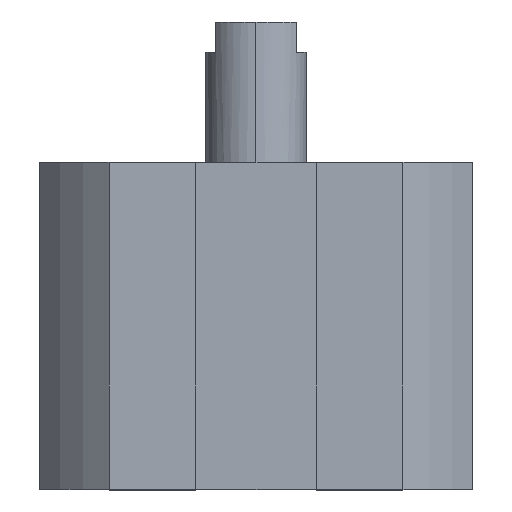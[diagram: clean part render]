
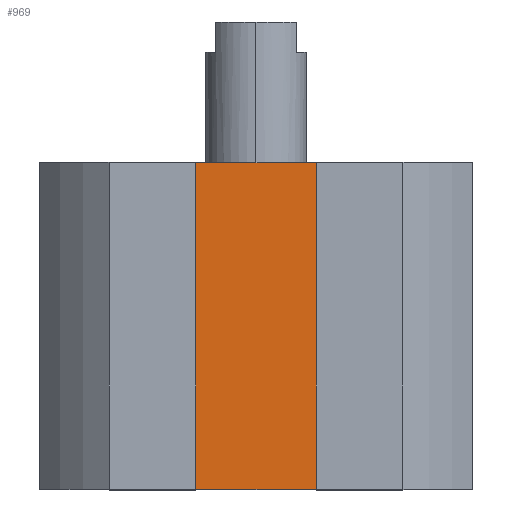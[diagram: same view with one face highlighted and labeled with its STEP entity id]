
A CAD part, top view. The second image highlights one B-rep face of the part: STEP entity #969.
In plain terms, the highlighted planar face has unit normal (0, 0, 1).
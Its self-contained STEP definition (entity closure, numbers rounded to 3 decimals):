
#120 = VERTEX_POINT ( 'NONE', #1189 ) ;
#129 = DIRECTION ( 'NONE',  ( 0., 0., 1. ) ) ;
#245 = VERTEX_POINT ( 'NONE', #2519 ) ;
#294 = ORIENTED_EDGE ( 'NONE', *, *, #819, .T. ) ;
#297 = DIRECTION ( 'NONE',  ( 1., 0., 0. ) ) ;
#336 = CARTESIAN_POINT ( 'NONE',  ( 0., -32.5, 14. ) ) ;
#378 = CARTESIAN_POINT ( 'NONE',  ( 7.7, -32.5, 14. ) ) ;
#533 = EDGE_CURVE ( 'NONE', #1047, #2322, #2314, .T. ) ;
#631 = EDGE_LOOP ( 'NONE', ( #1707, #858, #294, #2703 ) ) ;
#819 = EDGE_CURVE ( 'NONE', #120, #1047, #2276, .T. ) ;
#858 = ORIENTED_EDGE ( 'NONE', *, *, #1051, .F. ) ;
#938 = CARTESIAN_POINT ( 'NONE',  ( 7.7, 0., 14. ) ) ;
#969 = ADVANCED_FACE ( 'NONE', ( #1149 ), #1836, .T. ) ;
#1047 = VERTEX_POINT ( 'NONE', #378 ) ;
#1051 = EDGE_CURVE ( 'NONE', #120, #245, #2071, .T. ) ;
#1149 = FACE_OUTER_BOUND ( 'NONE', #631, .T. ) ;
#1189 = CARTESIAN_POINT ( 'NONE',  ( -7.7, -32.5, 14. ) ) ;
#1300 = CARTESIAN_POINT ( 'NONE',  ( 0., 0., 14. ) ) ;
#1363 = CARTESIAN_POINT ( 'NONE',  ( 0., -32.5, 14. ) ) ;
#1406 = DIRECTION ( 'NONE',  ( 1., 0., 0. ) ) ;
#1419 = LINE ( 'NONE', #1300, #1952 ) ;
#1431 = DIRECTION ( 'NONE',  ( 0., 1., 0. ) ) ;
#1529 = VECTOR ( 'NONE', #2376, 1000. ) ;
#1707 = ORIENTED_EDGE ( 'NONE', *, *, #2090, .F. ) ;
#1714 = DIRECTION ( 'NONE',  ( 1., 0., 0. ) ) ;
#1836 = PLANE ( 'NONE',  #1862 ) ;
#1862 = AXIS2_PLACEMENT_3D ( 'NONE', #336, #129, #1406 ) ;
#1952 = VECTOR ( 'NONE', #1714, 1000. ) ;
#2045 = CARTESIAN_POINT ( 'NONE',  ( -7.7, -32.5, 14. ) ) ;
#2071 = LINE ( 'NONE', #2045, #2525 ) ;
#2090 = EDGE_CURVE ( 'NONE', #245, #2322, #1419, .T. ) ;
#2276 = LINE ( 'NONE', #1363, #2310 ) ;
#2310 = VECTOR ( 'NONE', #297, 1000. ) ;
#2314 = LINE ( 'NONE', #2410, #1529 ) ;
#2322 = VERTEX_POINT ( 'NONE', #938 ) ;
#2376 = DIRECTION ( 'NONE',  ( 0., 1., 0. ) ) ;
#2410 = CARTESIAN_POINT ( 'NONE',  ( 7.7, -32.5, 14. ) ) ;
#2519 = CARTESIAN_POINT ( 'NONE',  ( -7.7, 0., 14. ) ) ;
#2525 = VECTOR ( 'NONE', #1431, 1000. ) ;
#2703 = ORIENTED_EDGE ( 'NONE', *, *, #533, .T. ) ;
